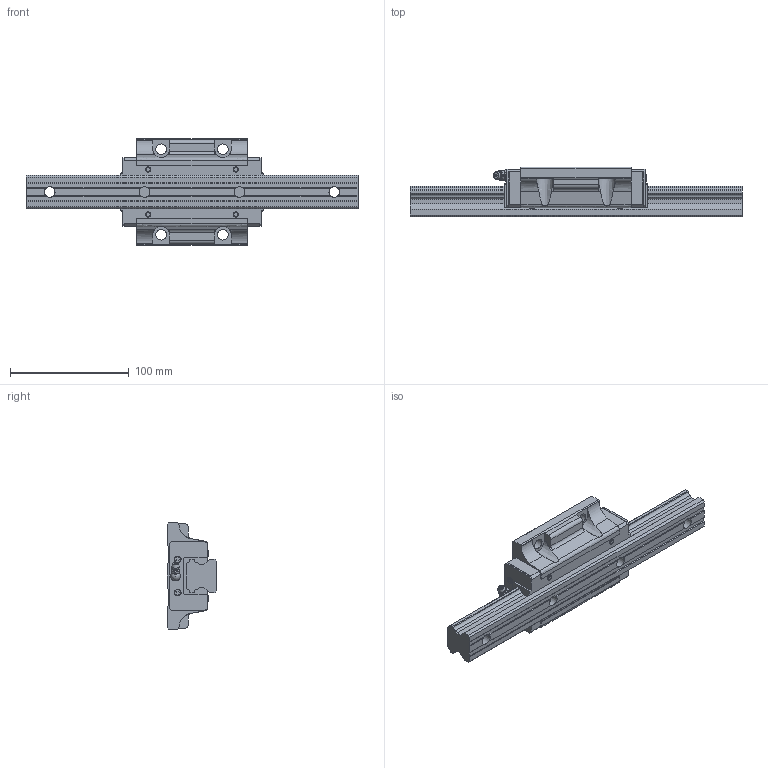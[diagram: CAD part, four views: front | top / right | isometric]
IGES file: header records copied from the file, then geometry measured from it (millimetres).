
Start section: Data from Parasolid IGES Translator 26.0.171, Copyright(c) 2006 Siemens PLM Software. All Rights Reserved.
Global section: file name: HSR30M1LB1SS-280L_G20_0_B-M6F_79-3_0_0_0.igs; native system: By Siemens PLM Incorporated; preprocessor: XPlus GENERIC/IGES 26.0.171; author: Noname; organization: Noname; date: 20240523.061747; units: millimetre
Bounding box: 280 x 42 x 90 mm (x, y, z)
Surface area: 73541.8 mm2 (no closed solid volume)
Topology: 0 solids, 0 shells, 293 faces, 1608 edges, 1553 vertices
Faces by surface type: extrusion 214, revolution 79
